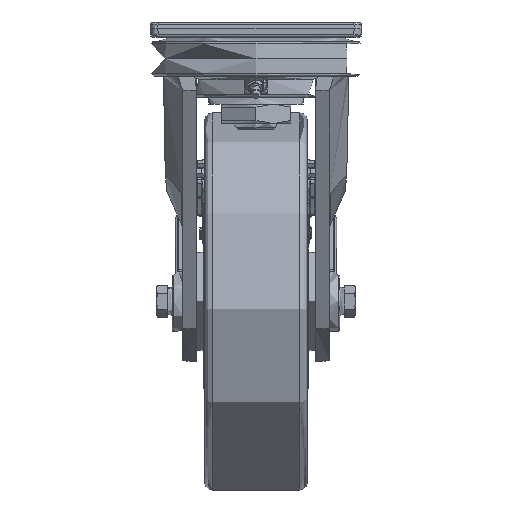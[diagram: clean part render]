
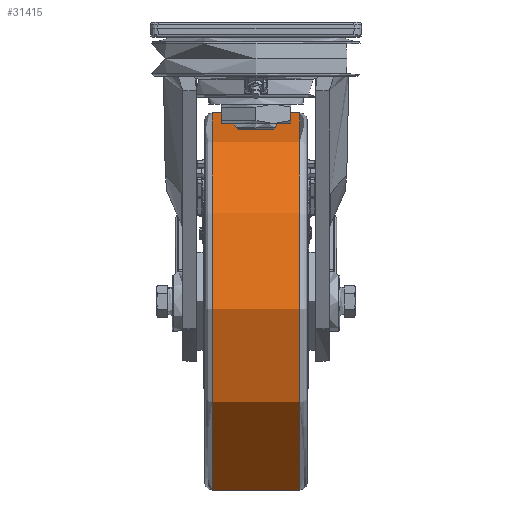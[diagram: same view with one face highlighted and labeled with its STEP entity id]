
A CAD part, left-side view. The second image highlights one B-rep face of the part: STEP entity #31415.
In plain terms, the highlighted cylindrical face has radius 125 mm (diameter 250 mm), a full revolution.
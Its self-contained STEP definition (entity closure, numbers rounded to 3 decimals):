
#3721=LINE('',#57151,#6152);
#6152=VECTOR('',#40548,125.);
#7186=CYLINDRICAL_SURFACE('',#34011,125.);
#8603=FACE_OUTER_BOUND('',#10479,.T.);
#10479=EDGE_LOOP('',(#27193,#27194,#27195,#27196,#27197,#27198,#27199,#27200));
#11961=CIRCLE('',#34007,125.);
#11962=CIRCLE('',#34008,125.);
#11963=CIRCLE('',#34009,125.);
#11965=CIRCLE('',#34012,125.);
#11966=CIRCLE('',#34013,125.);
#11967=CIRCLE('',#34014,125.);
#14447=VERTEX_POINT('',#57138);
#14448=VERTEX_POINT('',#57139);
#14449=VERTEX_POINT('',#57141);
#14450=VERTEX_POINT('',#57146);
#14451=VERTEX_POINT('',#57147);
#14452=VERTEX_POINT('',#57149);
#18811=EDGE_CURVE('',#14447,#14448,#11961,.T.);
#18812=EDGE_CURVE('',#14449,#14447,#11962,.T.);
#18813=EDGE_CURVE('',#14448,#14449,#11963,.T.);
#18815=EDGE_CURVE('',#14450,#14451,#11965,.T.);
#18816=EDGE_CURVE('',#14452,#14450,#11966,.T.);
#18817=EDGE_CURVE('',#14452,#14449,#3721,.T.);
#18818=EDGE_CURVE('',#14451,#14452,#11967,.T.);
#27193=ORIENTED_EDGE('',*,*,#18815,.F.);
#27194=ORIENTED_EDGE('',*,*,#18816,.F.);
#27195=ORIENTED_EDGE('',*,*,#18817,.T.);
#27196=ORIENTED_EDGE('',*,*,#18812,.T.);
#27197=ORIENTED_EDGE('',*,*,#18811,.T.);
#27198=ORIENTED_EDGE('',*,*,#18813,.T.);
#27199=ORIENTED_EDGE('',*,*,#18817,.F.);
#27200=ORIENTED_EDGE('',*,*,#18818,.F.);
#31415=ADVANCED_FACE('',(#8603),#7186,.T.);
#34007=AXIS2_PLACEMENT_3D('',#57140,#40534,#40535);
#34008=AXIS2_PLACEMENT_3D('',#57142,#40536,#40537);
#34009=AXIS2_PLACEMENT_3D('',#57143,#40538,#40539);
#34011=AXIS2_PLACEMENT_3D('',#57145,#40542,#40543);
#34012=AXIS2_PLACEMENT_3D('',#57148,#40544,#40545);
#34013=AXIS2_PLACEMENT_3D('',#57150,#40546,#40547);
#34014=AXIS2_PLACEMENT_3D('',#57152,#40549,#40550);
#40534=DIRECTION('center_axis',(0.,1.,0.));
#40535=DIRECTION('ref_axis',(0.533,0.,-0.846));
#40536=DIRECTION('center_axis',(0.,1.,0.));
#40537=DIRECTION('ref_axis',(0.533,0.,-0.846));
#40538=DIRECTION('center_axis',(0.,1.,0.));
#40539=DIRECTION('ref_axis',(0.533,0.,-0.846));
#40542=DIRECTION('center_axis',(0.,1.,0.));
#40543=DIRECTION('ref_axis',(-0.846,0.,-0.533));
#40544=DIRECTION('center_axis',(0.,1.,0.));
#40545=DIRECTION('ref_axis',(0.533,0.,-0.846));
#40546=DIRECTION('center_axis',(0.,1.,0.));
#40547=DIRECTION('ref_axis',(0.533,0.,-0.846));
#40548=DIRECTION('',(0.,-1.,0.));
#40549=DIRECTION('center_axis',(0.,1.,0.));
#40550=DIRECTION('ref_axis',(0.533,0.,-0.846));
#57138=CARTESIAN_POINT('',(-30.76,-29.,-247.633));
#57139=CARTESIAN_POINT('',(8.367,-29.,-75.24));
#57140=CARTESIAN_POINT('Origin',(75.,-29.,-181.));
#57141=CARTESIAN_POINT('',(180.76,-29.,-114.367));
#57142=CARTESIAN_POINT('Origin',(75.,-29.,-181.));
#57143=CARTESIAN_POINT('Origin',(75.,-29.,-181.));
#57145=CARTESIAN_POINT('Origin',(75.,0.,
-181.));
#57146=CARTESIAN_POINT('',(-30.76,29.,-247.633));
#57147=CARTESIAN_POINT('',(8.367,29.,-75.24));
#57148=CARTESIAN_POINT('Origin',(75.,29.,-181.));
#57149=CARTESIAN_POINT('',(180.76,29.,-114.367));
#57150=CARTESIAN_POINT('Origin',(75.,29.,-181.));
#57151=CARTESIAN_POINT('',(180.76,0.,-114.367));
#57152=CARTESIAN_POINT('Origin',(75.,29.,-181.));
